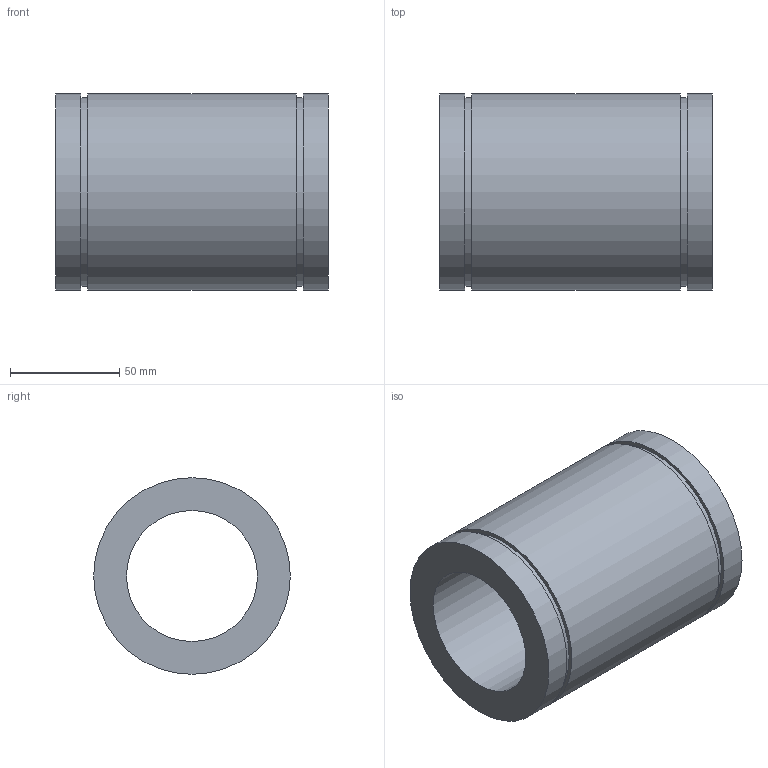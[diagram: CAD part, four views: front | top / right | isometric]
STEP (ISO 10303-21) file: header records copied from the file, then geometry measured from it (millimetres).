
FILE_DESCRIPTION( ( 'STEP AP203' ), '1' );
FILE_NAME( 'p:/temp/worker_87/temp/exporttempdir_3928_99_Nsggh/format_0/LME60UU.stp', '2020-04-29T03:07:52', ( 'License CC BY-ND 4.0' ), ( 'CADENAS' ), ' ', 'PARTsolutions', ' ' );
FILE_SCHEMA( ( 'CONFIG_CONTROL_DESIGN' ) );
Length unit declared in the file: millimetre
Products named in the file (1): _LME60UU
Bounding box: 125 x 90 x 90 mm (x, y, z)
Volume: 438729.8 mm3; surface area: 67844.9 mm2
Topology: 1 solids, 1 shells, 12 faces, 18 edges, 12 vertices
Faces by surface type: plane 6, cylinder 6
Full cylindrical faces by diameter (mm): 60 x1, 86.5 x2, 90 x3
Entity records: 292 total; most frequent: DIRECTION 50, CARTESIAN_POINT 37, AXIS2_PLACEMENT_3D 25, EDGE_LOOP 24, ORIENTED_EDGE 24, FACE_OUTER_BOUND 18, ADVANCED_FACE 12, EDGE_CURVE 12
